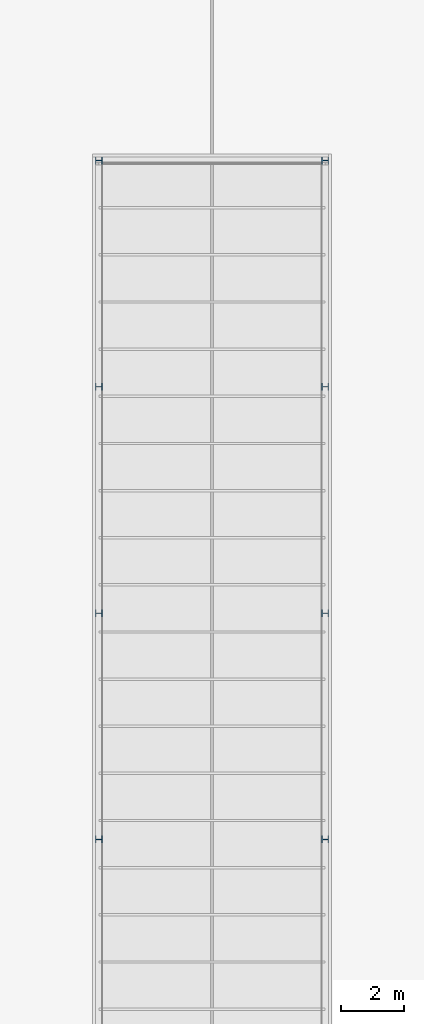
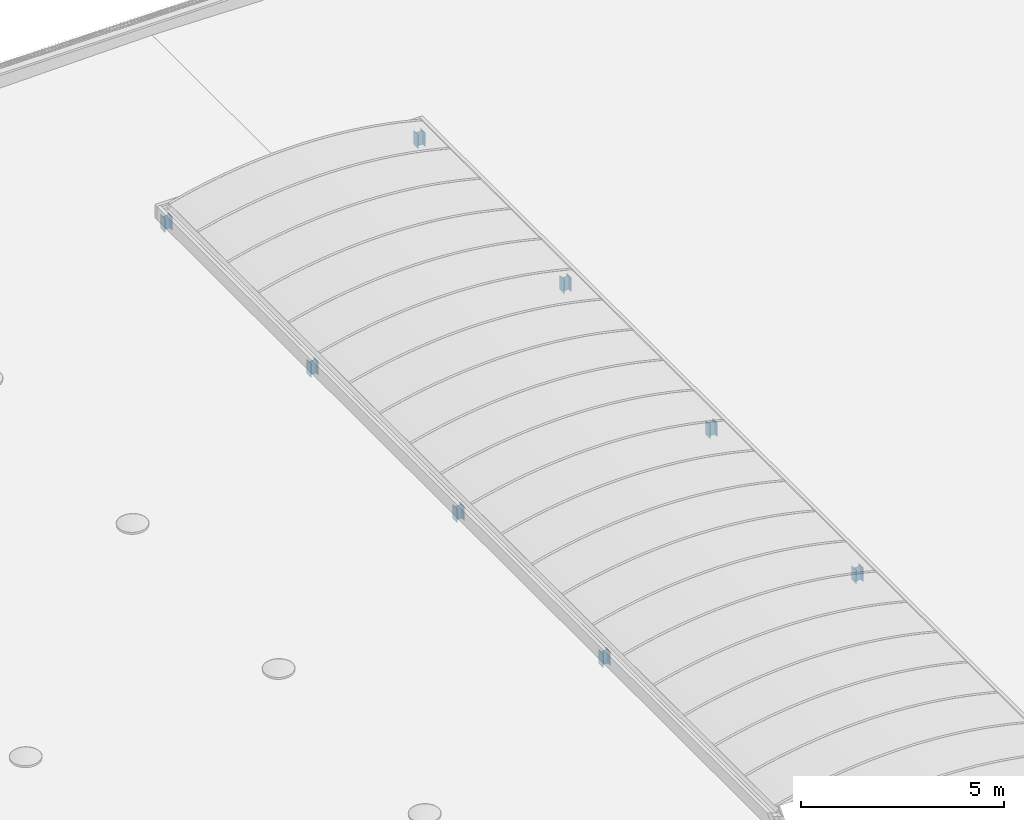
# One storey, part 28 of 81: 8 columns.
"""IFC2X3 building model written with IfcOpenShell, lengths in millimetres."""

from ifc_helpers import new_model, entity, si_unit, converted_unit, derived_unit, money_unit, direction, frame, origin_with_axes, place, context, subcontext, project, spatial, faceted_brep, material, type_object, element, save


model = new_model("IFC2X3")

# Units and contexts
model_context = context("Model", 3, precision=0.01, world=origin_with_axes(), true_north=direction((0.0, 1.0)))
body_context = subcontext(model_context, "Body", "Model", "MODEL_VIEW")
ifc_project = project(units=[si_unit("LENGTHUNIT", "METRE", prefix="MILLI"), si_unit("AREAUNIT", "SQUARE_METRE"), si_unit("VOLUMEUNIT", "CUBIC_METRE"), converted_unit("PLANEANGLEUNIT", "DEGREE", entity("IfcPlaneAngleMeasure", 0.0174532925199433), si_unit("PLANEANGLEUNIT", "RADIAN"), dimensions=[0, 0, 0, 0, 0, 0, 0]), money_unit("EUR"), converted_unit("TIMEUNIT", "Year", entity("IfcTimeMeasure", 31557600.0), si_unit("TIMEUNIT", "SECOND"), dimensions=[0, 0, 1, 0, 0, 0, 0]), si_unit("MASSUNIT", "GRAM", prefix="KILO"), si_unit("THERMODYNAMICTEMPERATUREUNIT", "DEGREE_CELSIUS"), si_unit("LUMINOUSINTENSITYUNIT", "LUMEN"), si_unit("ENERGYUNIT", "JOULE", prefix="MEGA"), derived_unit("THERMALCONDUCTANCEUNIT", [(si_unit("POWERUNIT", "WATT"), 1), (si_unit("LENGTHUNIT", "METRE"), -1), (si_unit("THERMODYNAMICTEMPERATUREUNIT", "KELVIN"), -1)]), derived_unit("SPECIFICHEATCAPACITYUNIT", [(si_unit("ENERGYUNIT", "JOULE"), 1), (si_unit("MASSUNIT", "GRAM", prefix="KILO"), -1), (si_unit("THERMODYNAMICTEMPERATUREUNIT", "KELVIN"), -1)]), derived_unit("MASSDENSITYUNIT", [(si_unit("MASSUNIT", "GRAM", prefix="KILO"), 1), (si_unit("VOLUMEUNIT", "CUBIC_METRE"), -1)])], contexts=[model_context])

# Site, building, storey
site_placement = place(None, origin_with_axes())
site = spatial("IfcSite", under=ifc_project, at=site_placement, Name="Site", CompositionType="ELEMENT")
building_placement = place(site_placement, origin_with_axes())
building = spatial("IfcBuilding", under=site, at=building_placement, Name="Naam gebouw", CompositionType="ELEMENT")
storey_placement = place(building_placement, frame((0.0, 0.0, 15320.0), z_axis=(0.0, 0.0, 1.0), x_axis=(1.0, 0.0, 0.0)))
storey = spatial("IfcBuildingStorey", under=building, at=storey_placement, Name="01 dak", CompositionType="ELEMENT", Elevation=15320.0)

# Columns
ifc_material = material(Name="Metaal - Staal C")
column_type = type_object("IfcColumnType", Name="HEA220 220 x 210", PredefinedType="COLUMN")
for number, where, z_axis, x_axis, name in (
    (1, (108900.0, 90800.0, -70.00000000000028), (0.0, 0.0, 1.0), (-1.0, 0.0, 0.0), "HEA220"),
    (2, (101700.0, 98000.0, -70.00000000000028), (0.0, 0.0, 1.0), (-1.0, 0.0, 0.0), "HEA220"),
    (3, (101700.0, 90800.0, -70.00000000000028), (0.0, 0.0, 1.0), (-1.0, 0.0, 0.0), "HEA220"),
    (4, (108900.0, 98000.0, -70.00000000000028), (0.0, 0.0, 1.0), (-1.0, 0.0, 0.0), "HEA220"),
    (5, (101700.0, 105200.0, -70.00000000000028), (0.0, 0.0, 1.0), (-1.0, 0.0, 0.0), "HEA220"),
    (6, (101700.0, 112400.0, -70.00000000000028), (0.0, 0.0, 1.0), (-1.0, 0.0, 0.0), "HEA220"),
    (7, (108900.0, 112400.0, -70.00000000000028), (0.0, 0.0, 1.0), (-1.0, 0.0, 0.0), "HEA220"),
    (8, (108900.0, 105200.0, -70.00000000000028), (0.0, 0.0, 1.0), (-1.0, 0.0, 0.0), "HEA220"),
):
    element("IfcColumn", number, at=place(storey_placement, frame(where, z_axis=z_axis, x_axis=x_axis)), inside=storey, type_object=column_type, material=ifc_material, Name=name, ObjectType="COLUMN", context=body_context, shape_type="Brep", body=[
        faceted_brep([(-105.000000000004, -109.9999999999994, 419.9999999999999), (-105.000000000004, -109.9999999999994, 0.0), (-93.99999999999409, -109.9999999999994, 0.0), (-93.99999999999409, -109.9999999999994, 419.9999999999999), (-105.000000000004, 109.9999999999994, 419.9999999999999), (-105.000000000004, 109.9999999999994, 0.0), (-93.99999999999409, 109.9999999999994, 0.0), (-93.99999999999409, 3.500000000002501, 0.0), (93.99999999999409, 3.500000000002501, 0.0), (93.99999999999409, 109.9999999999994, 0.0), (105.000000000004, 109.9999999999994, 0.0), (105.000000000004, -109.9999999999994, 0.0), (93.99999999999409, -109.9999999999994, 0.0), (93.99999999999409, -3.500000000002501, 0.0), (-93.99999999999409, -3.500000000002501, 0.0), (-93.99999999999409, -3.500000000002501, 419.9999999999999), (93.99999999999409, -3.500000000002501, 419.9999999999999), (93.99999999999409, -109.9999999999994, 419.9999999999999), (105.000000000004, -109.9999999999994, 419.9999999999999), (105.000000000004, 109.9999999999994, 419.9999999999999), (93.99999999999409, 109.9999999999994, 419.9999999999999), (93.99999999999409, 3.500000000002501, 419.9999999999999), (-93.99999999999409, 3.500000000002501, 419.9999999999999), (-93.99999999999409, 109.9999999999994, 419.9999999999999)], [[[0, 1, 2, 3]], [[4, 5, 1, 0]], [[2, 1, 5, 6, 7, 8, 9, 10, 11, 12, 13, 14]], [[3, 2, 14, 15]], [[4, 0, 3, 15, 16, 17, 18, 19, 20, 21, 22, 23]], [[23, 6, 5, 4]], [[22, 7, 6, 23]], [[21, 8, 7, 22]], [[20, 9, 8, 21]], [[19, 10, 9, 20]], [[18, 11, 10, 19]], [[17, 12, 11, 18]], [[16, 13, 12, 17]], [[15, 14, 13, 16]]]),
    ])

save(model, "model.ifc")
